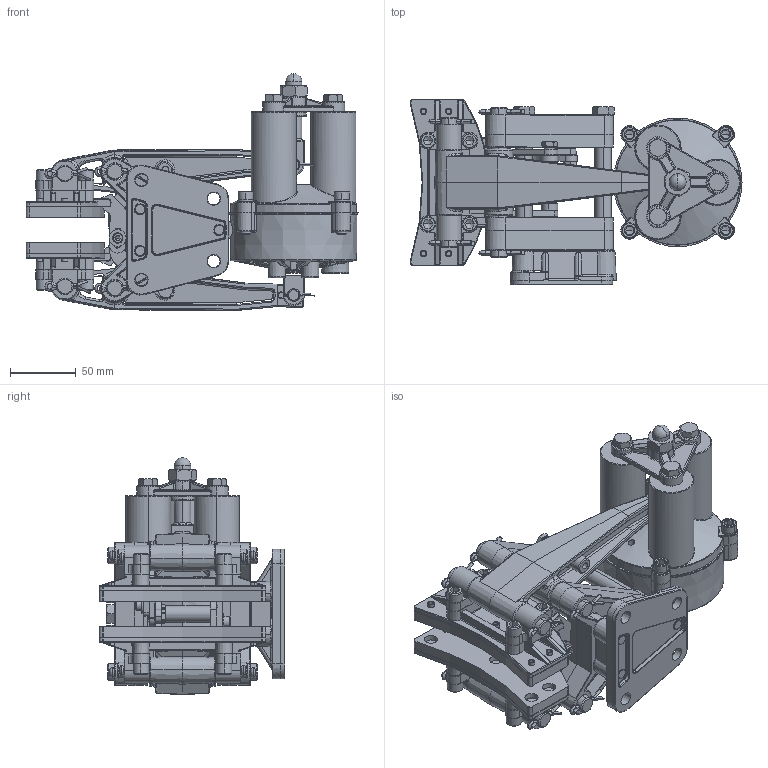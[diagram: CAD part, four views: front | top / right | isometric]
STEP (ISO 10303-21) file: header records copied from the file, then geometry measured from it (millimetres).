
FILE_DESCRIPTION (( 'STEP AP214' ), '1' );
FILE_NAME ('5019-SA-LH.STEP', '2016-06-02T17:34:50', ( 'User' ), ( 'Microsoft' ), 'SwSTEP 2.0', 'SolidWorks 2015', '' );
FILE_SCHEMA (( 'AUTOMOTIVE_DESIGN' ));
Length unit declared in the file: inch
Products named in the file (1): 5019-SA-LH
Bounding box: 253.14 x 141.52 x 180.57 mm (x, y, z)
Surface area: 317331 mm2 (no closed solid volume)
Topology: 0 solids, 114 shells, 2767 faces, 8049 edges, 5156 vertices
Faces by surface type: cylinder 758, plane 748, bspline 466, cone 433, torus 339, sphere 23
Entity records: 146905 total; most frequent: CARTESIAN_POINT 44029, ORIENTED_EDGE 13613, DIRECTION 13527, EDGE_CURVE 7947, AXIS2_PLACEMENT_3D 5366, VERTEX_POINT 5156, CIRCLE 3064, EDGE_LOOP 3016
